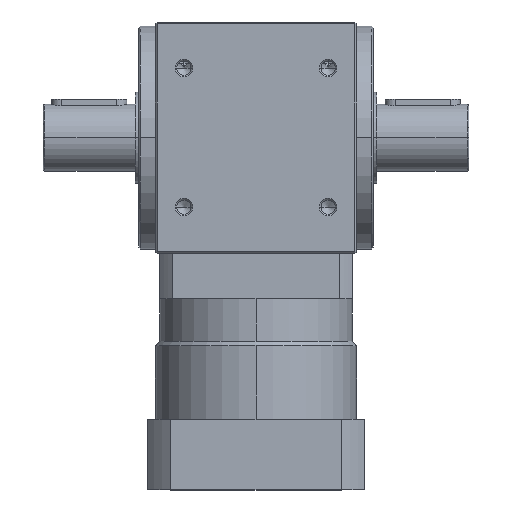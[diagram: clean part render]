
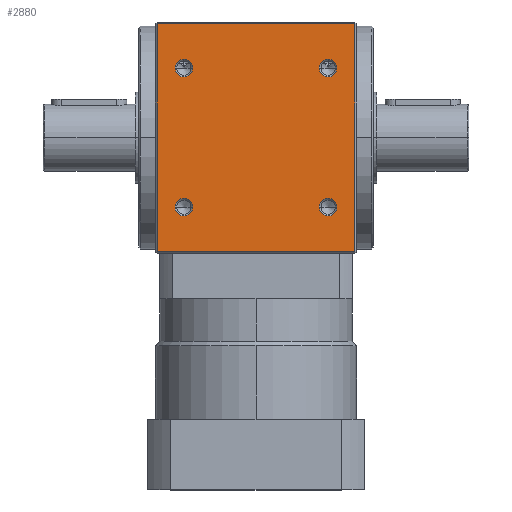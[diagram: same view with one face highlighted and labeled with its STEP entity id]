
A CAD part, top view. The second image highlights one B-rep face of the part: STEP entity #2880.
In plain terms, the highlighted planar face has unit normal (0, 0, 1).
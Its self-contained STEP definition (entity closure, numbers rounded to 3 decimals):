
#132 = CARTESIAN_POINT ( 'NONE',  ( -59., -68., 69. ) ) ;
#193 = CARTESIAN_POINT ( 'NONE',  ( -59., 68., 69. ) ) ;
#204 = VERTEX_POINT ( 'NONE', #357 ) ;
#289 = PLANE ( 'NONE',  #3144 ) ;
#357 = CARTESIAN_POINT ( 'NONE',  ( -48.25, 41.5, 69. ) ) ;
#492 = DIRECTION ( 'NONE',  ( 1., 0., 0. ) ) ;
#566 = EDGE_CURVE ( 'NONE', #5586, #8640, #7646, .T. ) ;
#587 = CIRCLE ( 'NONE', #2259, 5.25 ) ;
#597 = CARTESIAN_POINT ( 'NONE',  ( 43., -41.5, 69. ) ) ;
#614 = CARTESIAN_POINT ( 'NONE',  ( 43., 41.5, 69. ) ) ;
#659 = DIRECTION ( 'NONE',  ( 0., 0., 1. ) ) ;
#681 = CARTESIAN_POINT ( 'NONE',  ( 60., 68., 69. ) ) ;
#735 = ORIENTED_EDGE ( 'NONE', *, *, #9113, .F. ) ;
#900 = ORIENTED_EDGE ( 'NONE', *, *, #9344, .F. ) ;
#978 = DIRECTION ( 'NONE',  ( 0., 1., 0. ) ) ;
#994 = CIRCLE ( 'NONE', #3208, 5.25 ) ;
#1022 = CARTESIAN_POINT ( 'NONE',  ( 60., -68., 69. ) ) ;
#1073 = CARTESIAN_POINT ( 'NONE',  ( 43., -41.5, 69. ) ) ;
#1128 = CARTESIAN_POINT ( 'NONE',  ( -37.75, -41.5, 69. ) ) ;
#1148 = LINE ( 'NONE', #5826, #2925 ) ;
#1297 = DIRECTION ( 'NONE',  ( 0., 0., 1. ) ) ;
#1328 = VERTEX_POINT ( 'NONE', #1128 ) ;
#1337 = ORIENTED_EDGE ( 'NONE', *, *, #9413, .F. ) ;
#1342 = DIRECTION ( 'NONE',  ( 1., 0., 0. ) ) ;
#1377 = FACE_BOUND ( 'NONE', #8126, .T. ) ;
#1383 = DIRECTION ( 'NONE',  ( 1., 0., 0. ) ) ;
#1551 = CIRCLE ( 'NONE', #6770, 5.25 ) ;
#1606 = FACE_BOUND ( 'NONE', #5626, .T. ) ;
#1657 = DIRECTION ( 'NONE',  ( 0., 0., 1. ) ) ;
#1750 = CARTESIAN_POINT ( 'NONE',  ( 37.75, -41.5, 69. ) ) ;
#1800 = DIRECTION ( 'NONE',  ( 1., 0., 0. ) ) ;
#1809 = DIRECTION ( 'NONE',  ( 0., 0., -1. ) ) ;
#1828 = ORIENTED_EDGE ( 'NONE', *, *, #7623, .F. ) ;
#1923 = LINE ( 'NONE', #681, #5953 ) ;
#1964 = VERTEX_POINT ( 'NONE', #2234 ) ;
#2086 = VERTEX_POINT ( 'NONE', #4360 ) ;
#2234 = CARTESIAN_POINT ( 'NONE',  ( 48.25, 41.5, 69. ) ) ;
#2259 = AXIS2_PLACEMENT_3D ( 'NONE', #5819, #1297, #6591 ) ;
#2432 = VERTEX_POINT ( 'NONE', #132 ) ;
#2718 = VECTOR ( 'NONE', #978, 1000. ) ;
#2763 = CIRCLE ( 'NONE', #5053, 5.25 ) ;
#2789 = ORIENTED_EDGE ( 'NONE', *, *, #9766, .F. ) ;
#2830 = DIRECTION ( 'NONE',  ( 0., -1., 0. ) ) ;
#2880 = ADVANCED_FACE ( 'NONE', ( #5631, #1606, #1377, #5394, #9225 ), #289, .F. ) ;
#2920 = AXIS2_PLACEMENT_3D ( 'NONE', #9568, #4995, #492 ) ;
#2925 = VECTOR ( 'NONE', #2830, 1000. ) ;
#3069 = VERTEX_POINT ( 'NONE', #4770 ) ;
#3093 = ORIENTED_EDGE ( 'NONE', *, *, #7502, .F. ) ;
#3144 = AXIS2_PLACEMENT_3D ( 'NONE', #6350, #1809, #7127 ) ;
#3208 = AXIS2_PLACEMENT_3D ( 'NONE', #1073, #6346, #1800 ) ;
#3246 = EDGE_LOOP ( 'NONE', ( #3555, #735, #2789, #6034 ) ) ;
#3330 = EDGE_CURVE ( 'NONE', #5630, #9818, #1148, .T. ) ;
#3368 = CIRCLE ( 'NONE', #6293, 5.25 ) ;
#3398 = DIRECTION ( 'NONE',  ( 0., 0., 1. ) ) ;
#3468 = EDGE_CURVE ( 'NONE', #2432, #9818, #7457, .T. ) ;
#3507 = VERTEX_POINT ( 'NONE', #193 ) ;
#3555 = ORIENTED_EDGE ( 'NONE', *, *, #3330, .F. ) ;
#3950 = AXIS2_PLACEMENT_3D ( 'NONE', #6209, #1657, #6980 ) ;
#3977 = ORIENTED_EDGE ( 'NONE', *, *, #8431, .F. ) ;
#3989 = DIRECTION ( 'NONE',  ( 0., 0., 1. ) ) ;
#4031 = ORIENTED_EDGE ( 'NONE', *, *, #4809, .F. ) ;
#4360 = CARTESIAN_POINT ( 'NONE',  ( -48.25, -41.5, 69. ) ) ;
#4500 = ORIENTED_EDGE ( 'NONE', *, *, #566, .F. ) ;
#4770 = CARTESIAN_POINT ( 'NONE',  ( 37.75, 41.5, 69. ) ) ;
#4772 = CARTESIAN_POINT ( 'NONE',  ( 59., -68., 69. ) ) ;
#4809 = EDGE_CURVE ( 'NONE', #1328, #2086, #7478, .T. ) ;
#4995 = DIRECTION ( 'NONE',  ( 0., 0., 1. ) ) ;
#5022 = EDGE_LOOP ( 'NONE', ( #900, #4500 ) ) ;
#5053 = AXIS2_PLACEMENT_3D ( 'NONE', #8557, #3989, #9299 ) ;
#5394 = FACE_BOUND ( 'NONE', #5022, .T. ) ;
#5474 = CARTESIAN_POINT ( 'NONE',  ( -59., 69., 69. ) ) ;
#5480 = AXIS2_PLACEMENT_3D ( 'NONE', #597, #659, #9601 ) ;
#5586 = VERTEX_POINT ( 'NONE', #1750 ) ;
#5626 = EDGE_LOOP ( 'NONE', ( #1828, #8355 ) ) ;
#5630 = VERTEX_POINT ( 'NONE', #7191 ) ;
#5631 = FACE_OUTER_BOUND ( 'NONE', #3246, .T. ) ;
#5819 = CARTESIAN_POINT ( 'NONE',  ( -43., 41.5, 69. ) ) ;
#5826 = CARTESIAN_POINT ( 'NONE',  ( 59., 69., 69. ) ) ;
#5875 = DIRECTION ( 'NONE',  ( 0., 0., 1. ) ) ;
#5953 = VECTOR ( 'NONE', #1383, 1000. ) ;
#6034 = ORIENTED_EDGE ( 'NONE', *, *, #3468, .T. ) ;
#6209 = CARTESIAN_POINT ( 'NONE',  ( -43., 41.5, 69. ) ) ;
#6293 = AXIS2_PLACEMENT_3D ( 'NONE', #614, #5875, #1342 ) ;
#6318 = DIRECTION ( 'NONE',  ( 1., 0., 0. ) ) ;
#6346 = DIRECTION ( 'NONE',  ( 0., 0., 1. ) ) ;
#6350 = CARTESIAN_POINT ( 'NONE',  ( 60., 69., 69. ) ) ;
#6503 = LINE ( 'NONE', #5474, #2718 ) ;
#6591 = DIRECTION ( 'NONE',  ( 1., 0., 0. ) ) ;
#6770 = AXIS2_PLACEMENT_3D ( 'NONE', #7971, #3398, #8748 ) ;
#6887 = EDGE_CURVE ( 'NONE', #204, #9527, #587, .T. ) ;
#6980 = DIRECTION ( 'NONE',  ( 1., 0., 0. ) ) ;
#7127 = DIRECTION ( 'NONE',  ( 0., 1., 0. ) ) ;
#7191 = CARTESIAN_POINT ( 'NONE',  ( 59., 68., 69. ) ) ;
#7457 = LINE ( 'NONE', #1022, #7706 ) ;
#7478 = CIRCLE ( 'NONE', #2920, 5.25 ) ;
#7502 = EDGE_CURVE ( 'NONE', #3069, #1964, #3368, .T. ) ;
#7623 = EDGE_CURVE ( 'NONE', #9527, #204, #7664, .T. ) ;
#7646 = CIRCLE ( 'NONE', #5480, 5.25 ) ;
#7664 = CIRCLE ( 'NONE', #3950, 5.25 ) ;
#7706 = VECTOR ( 'NONE', #6318, 1000. ) ;
#7971 = CARTESIAN_POINT ( 'NONE',  ( -43., -41.5, 69. ) ) ;
#8117 = CARTESIAN_POINT ( 'NONE',  ( 48.25, -41.5, 69. ) ) ;
#8126 = EDGE_LOOP ( 'NONE', ( #3977, #3093 ) ) ;
#8355 = ORIENTED_EDGE ( 'NONE', *, *, #6887, .F. ) ;
#8431 = EDGE_CURVE ( 'NONE', #1964, #3069, #2763, .T. ) ;
#8557 = CARTESIAN_POINT ( 'NONE',  ( 43., 41.5, 69. ) ) ;
#8640 = VERTEX_POINT ( 'NONE', #8117 ) ;
#8748 = DIRECTION ( 'NONE',  ( 1., 0., 0. ) ) ;
#8750 = EDGE_LOOP ( 'NONE', ( #4031, #1337 ) ) ;
#9113 = EDGE_CURVE ( 'NONE', #3507, #5630, #1923, .T. ) ;
#9225 = FACE_BOUND ( 'NONE', #8750, .T. ) ;
#9299 = DIRECTION ( 'NONE',  ( 1., 0., 0. ) ) ;
#9344 = EDGE_CURVE ( 'NONE', #8640, #5586, #994, .T. ) ;
#9413 = EDGE_CURVE ( 'NONE', #2086, #1328, #1551, .T. ) ;
#9527 = VERTEX_POINT ( 'NONE', #9645 ) ;
#9568 = CARTESIAN_POINT ( 'NONE',  ( -43., -41.5, 69. ) ) ;
#9601 = DIRECTION ( 'NONE',  ( 1., 0., 0. ) ) ;
#9645 = CARTESIAN_POINT ( 'NONE',  ( -37.75, 41.5, 69. ) ) ;
#9766 = EDGE_CURVE ( 'NONE', #2432, #3507, #6503, .T. ) ;
#9818 = VERTEX_POINT ( 'NONE', #4772 ) ;
